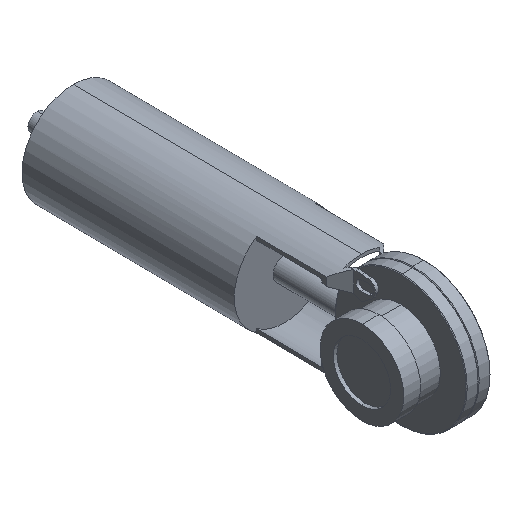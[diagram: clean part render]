
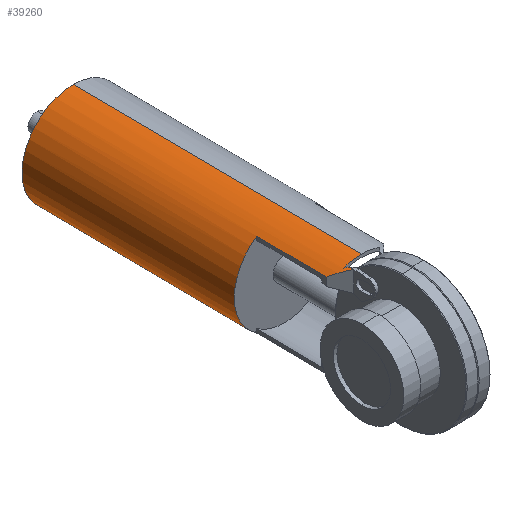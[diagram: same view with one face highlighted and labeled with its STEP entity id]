
A CAD part, isometric view. The second image highlights one B-rep face of the part: STEP entity #39260.
In plain terms, the highlighted cylindrical face has radius 42.5 mm (diameter 85 mm), a partial arc.
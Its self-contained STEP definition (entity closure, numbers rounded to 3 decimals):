
#60=CARTESIAN_POINT('',(-28.306,-212.914,
-221.938));
#70=DIRECTION('',(-0.,0.,-1.));
#80=DIRECTION('',(-1.,0.,0.));
#90=AXIS2_PLACEMENT_3D('',#60,#70,#80);
#100=CIRCLE('',#90,42.5);
#110=CARTESIAN_POINT('',(-70.806,-212.914,
-221.938));
#120=VERTEX_POINT('',#110);
#130=CARTESIAN_POINT('',(14.194,-212.914,
-221.938));
#140=VERTEX_POINT('',#130);
#150=EDGE_CURVE('',#120,#140,#100,.T.);
#420=CARTESIAN_POINT('',(-70.806,-212.914,
-44.596));
#430=DIRECTION('',(0.,0.,1.));
#440=VECTOR('',#430,1.);
#450=LINE('',#420,#440);
#460=CARTESIAN_POINT('',(-70.806,-212.914,
18.804));
#470=VERTEX_POINT('',#460);
#480=EDGE_CURVE('',#120,#470,#450,.T.);
#500=CARTESIAN_POINT('',(-28.306,-212.914,
18.804));
#510=DIRECTION('',(0.,0.,1.));
#520=DIRECTION('',(-0.935,0.354,0.));
#530=AXIS2_PLACEMENT_3D('',#500,#510,#520);
#540=CIRCLE('',#530,42.5);
#1700=CARTESIAN_POINT('',(-28.306,-212.914,
18.804));
#1710=DIRECTION('',(0.,0.,1.));
#1720=DIRECTION('',(0.935,-0.354,0.));
#1730=AXIS2_PLACEMENT_3D('',#1700,#1710,#1720);
#1740=CIRCLE('',#1730,42.5);
#1750=CARTESIAN_POINT('',(14.194,-212.914,
18.804));
#1760=VERTEX_POINT('',#1750);
#1790=CARTESIAN_POINT('',(14.194,-212.914,
-44.596));
#1800=DIRECTION('',(0.,0.,1.));
#1810=VECTOR('',#1800,1.);
#1820=LINE('',#1790,#1810);
#1830=EDGE_CURVE('',#140,#1760,#1820,.T.);
#2360=CARTESIAN_POINT('',(11.437,-197.856,
18.804));
#2370=VERTEX_POINT('',#2360);
#2380=EDGE_CURVE('',#1760,#2370,#1740,.T.);
#2940=CARTESIAN_POINT('',(12.314,-200.414,
21.362));
#2950=VERTEX_POINT('',#2940);
#2980=CARTESIAN_POINT('',(-28.306,-212.914,
33.862));
#2990=DIRECTION('',(0.,0.707,0.707));
#3000=DIRECTION('',(0.,0.707,-0.707));
#3010=AXIS2_PLACEMENT_3D('',#2980,#2990,#3000);
#3020=ELLIPSE('',#3010,60.104,42.5);
#3030=EDGE_CURVE('',#2950,#2370,#3020,.T.);
#3880=CARTESIAN_POINT('',(6.769,-188.914,
13.397));
#3890=VERTEX_POINT('',#3880);
#4300=CARTESIAN_POINT('',(6.769,-188.914,
-44.596));
#4310=VERTEX_POINT('',#4300);
#4340=CARTESIAN_POINT('',(6.769,-188.914,
-44.596));
#4350=DIRECTION('',(0.,0.,1.));
#4360=VECTOR('',#4350,1.);
#4370=LINE('',#4340,#4360);
#4380=EDGE_CURVE('',#4310,#3890,#4370,.T.);
#4490=CARTESIAN_POINT('',(-28.306,-212.914,
37.397));
#4500=DIRECTION('',(0.,-0.707,-0.707));
#4510=DIRECTION('',(0.,0.707,-0.707));
#4520=AXIS2_PLACEMENT_3D('',#4490,#4500,#4510);
#4530=ELLIPSE('',#4520,60.104,42.5);
#4540=CARTESIAN_POINT('',(12.314,-200.414,
24.897));
#4550=VERTEX_POINT('',#4540);
#4560=EDGE_CURVE('',#3890,#4550,#4530,.T.);
#5810=CARTESIAN_POINT('',(12.314,-200.414,
24.897));
#5820=DIRECTION('',(0.,0.,-1.));
#5830=VECTOR('',#5820,1.);
#5840=LINE('',#5810,#5830);
#5850=EDGE_CURVE('',#4550,#2950,#5840,.T.);
#8220=CARTESIAN_POINT('',(-69.45,-202.267,
26.749));
#8230=VERTEX_POINT('',#8220);
#8320=CARTESIAN_POINT('',(-69.613,-202.914,
27.397));
#8330=VERTEX_POINT('',#8320);
#8360=CARTESIAN_POINT('',(-28.306,-212.914,
37.397));
#8370=DIRECTION('',(0.,-0.707,-0.707));
#8380=DIRECTION('',(0.,0.707,-0.707));
#8390=AXIS2_PLACEMENT_3D('',#8360,#8370,#8380);
#8400=ELLIPSE('',#8390,60.104,42.5);
#8410=EDGE_CURVE('',#8330,#8230,#8400,.T.);
#8510=CARTESIAN_POINT('',(-28.306,-212.914,
387.871));
#8520=DIRECTION('',(0.994,0.,-0.113));
#8530=DIRECTION('',(-0.113,-0.,-0.994));
#8540=AXIS2_PLACEMENT_3D('',#8510,#8520,#8530);
#8550=ELLIPSE('',#8540,375.431,42.5);
#8560=CARTESIAN_POINT('',(-68.926,-200.414,
31.352));
#8570=VERTEX_POINT('',#8560);
#8580=EDGE_CURVE('',#8230,#8570,#8550,.T.);
#9350=CARTESIAN_POINT('',(-68.926,-200.414,
24.897));
#9360=DIRECTION('',(0.,0.,1.));
#9370=VECTOR('',#9360,1.);
#9380=LINE('',#9350,#9370);
#9390=CARTESIAN_POINT('',(-68.926,-200.414,
24.897));
#9400=VERTEX_POINT('',#9390);
#9410=EDGE_CURVE('',#9400,#8570,#9380,.T.);
#14460=CARTESIAN_POINT('',(-69.613,-202.914,
26.514));
#14470=VERTEX_POINT('',#14460);
#14500=CARTESIAN_POINT('',(-69.613,-202.914,
26.514));
#14510=DIRECTION('',(0.,0.,1.));
#14520=VECTOR('',#14510,1.);
#14530=LINE('',#14500,#14520);
#14540=EDGE_CURVE('',#14470,#8330,#14530,.T.);
#15400=CARTESIAN_POINT('',(-69.613,-202.914,
23.862));
#15410=VERTEX_POINT('',#15400);
#15440=CARTESIAN_POINT('',(-69.613,-202.914,
23.862));
#15450=DIRECTION('',(0.,0.,1.));
#15460=VECTOR('',#15450,1.);
#15470=LINE('',#15440,#15460);
#15480=EDGE_CURVE('',#15410,#14470,#15470,.T.);
#18380=CARTESIAN_POINT('',(-68.049,-197.856,
18.804));
#18390=VERTEX_POINT('',#18380);
#18420=CARTESIAN_POINT('',(-28.306,-212.914,
33.862));
#18430=DIRECTION('',(0.,0.707,0.707));
#18440=DIRECTION('',(0.,0.707,-0.707));
#18450=AXIS2_PLACEMENT_3D('',#18420,#18430,#18440);
#18460=ELLIPSE('',#18450,60.104,42.5);
#18470=EDGE_CURVE('',#18390,#15410,#18460,.T.);
#18600=CARTESIAN_POINT('',(-63.381,-188.914,
13.397));
#18610=DIRECTION('',(0.,0.,-1.));
#18620=VECTOR('',#18610,1.);
#18630=LINE('',#18600,#18620);
#18640=CARTESIAN_POINT('',(-63.381,-188.914,
13.397));
#18650=VERTEX_POINT('',#18640);
#18660=CARTESIAN_POINT('',(-63.381,-188.914,
-44.596));
#18670=VERTEX_POINT('',#18660);
#18680=EDGE_CURVE('',#18650,#18670,#18630,.T.);
#19020=CARTESIAN_POINT('',(-28.306,-212.914,
37.397));
#19030=DIRECTION('',(0.,0.707,0.707));
#19040=DIRECTION('',(0.,0.707,-0.707));
#19050=AXIS2_PLACEMENT_3D('',#19020,#19030,#19040);
#19060=ELLIPSE('',#19050,60.104,42.5);
#19070=EDGE_CURVE('',#18650,#9400,#19060,.T.);
#19270=CARTESIAN_POINT('',(-28.306,-212.914,
-44.596));
#19280=DIRECTION('',(0.,-0.,1.));
#19290=DIRECTION('',(0.825,0.565,0.));
#19300=AXIS2_PLACEMENT_3D('',#19270,#19280,#19290);
#19310=CIRCLE('',#19300,42.5);
#19320=EDGE_CURVE('',#4310,#18670,#19310,.T.);
#28990=EDGE_CURVE('',#18390,#470,#540,.T.);
#39010=CARTESIAN_POINT('',(-28.306,-212.914,
-44.596));
#39020=DIRECTION('',(0.,0.,1.));
#39030=DIRECTION('',(-1.,0.,0.));
#39040=AXIS2_PLACEMENT_3D('',#39010,#39020,#39030);
#39050=CYLINDRICAL_SURFACE('',#39040,42.5);
#39060=ORIENTED_EDGE('',*,*,#3030,.T.);
#39070=ORIENTED_EDGE('',*,*,#5850,.T.);
#39080=ORIENTED_EDGE('',*,*,#4560,.T.);
#39090=ORIENTED_EDGE('',*,*,#4380,.T.);
#39100=ORIENTED_EDGE('',*,*,#19320,.F.);
#39110=ORIENTED_EDGE('',*,*,#18680,.T.);
#39120=ORIENTED_EDGE('',*,*,#19070,.F.);
#39130=ORIENTED_EDGE('',*,*,#9410,.F.);
#39140=ORIENTED_EDGE('',*,*,#8580,.T.);
#39150=ORIENTED_EDGE('',*,*,#8410,.T.);
#39160=ORIENTED_EDGE('',*,*,#14540,.T.);
#39170=ORIENTED_EDGE('',*,*,#15480,.T.);
#39180=ORIENTED_EDGE('',*,*,#18470,.T.);
#39190=ORIENTED_EDGE('',*,*,#28990,.F.);
#39200=ORIENTED_EDGE('',*,*,#480,.T.);
#39210=ORIENTED_EDGE('',*,*,#150,.F.);
#39220=ORIENTED_EDGE('',*,*,#1830,.F.);
#39230=ORIENTED_EDGE('',*,*,#2380,.F.);
#39240=EDGE_LOOP('',(#39230,#39220,#39210,#39200,#39190,#39180,#39170,
#39160,#39150,#39140,#39130,#39120,#39110,#39100,#39090,#39080,#39070,
#39060));
#39250=FACE_OUTER_BOUND('',#39240,.T.);
#39260=ADVANCED_FACE('',(#39250),#39050,.T.);
